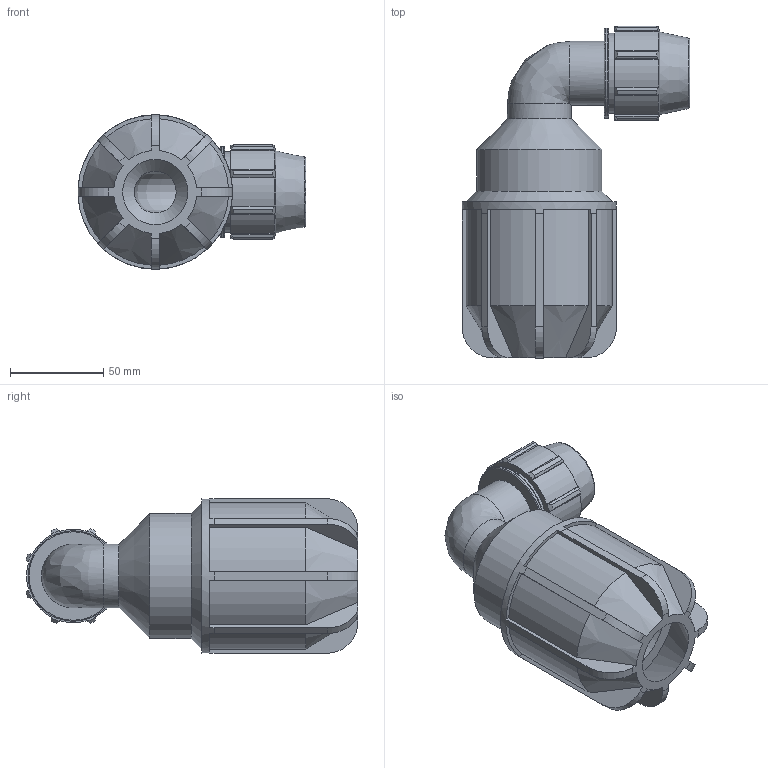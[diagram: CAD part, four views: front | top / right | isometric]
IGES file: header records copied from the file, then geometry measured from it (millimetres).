
Global section: file name: 070570025035_180570025035_0705700250350A.ipt; native system: Autodesk Inventor 2015; preprocessor: unknown; author: KIM; date: 20170606.172137; units: millimetre
Bounding box: 122.5 x 178.41 x 83 mm (x, y, z)
Volume: 308334.5 mm3; surface area: 85653.2 mm2
Topology: 1 solids, 1 shells, 160 faces, 453 edges, 299 vertices
Faces by surface type: plane 88, cylinder 38, cone 20, revolution 13, bspline 1
Full cylindrical faces by diameter (mm): 34.238 x2, 43.2 x1, 48.6 x1, 67.278 x1, 83 x1
